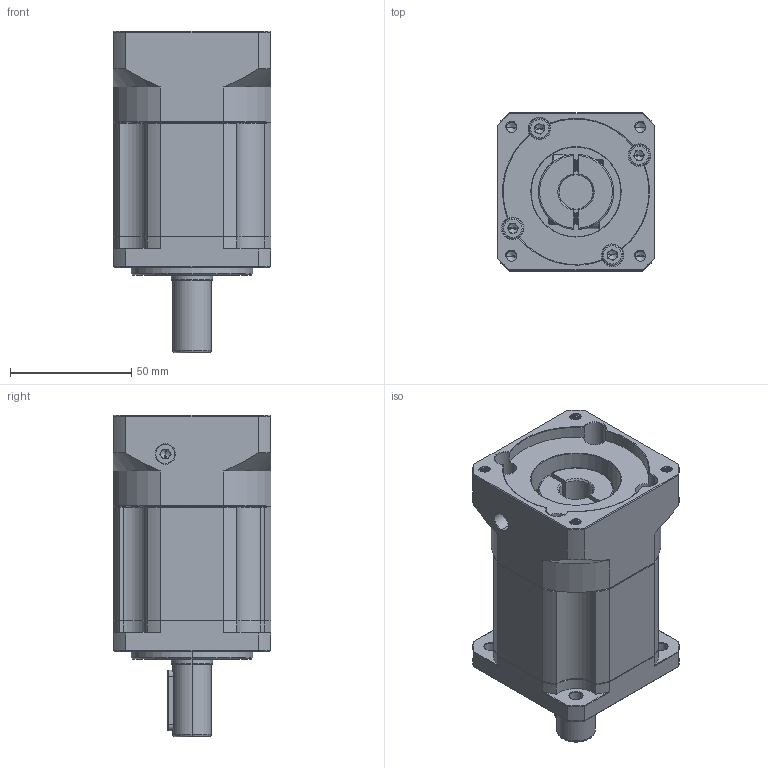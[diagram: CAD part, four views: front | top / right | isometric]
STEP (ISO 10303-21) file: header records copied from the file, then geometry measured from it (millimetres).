
FILE_DESCRIPTION (( 'STEP AP214' ), '1' );
FILE_NAME ('ZB060-D16-L2-P2-14-60-75-M5.step', '2023-08-16T07:06:29', ( '' ), ( '' ), 'SwSTEP 2.0', 'SolidWorks 2016', '' );
FILE_SCHEMA (( 'AUTOMOTIVE_DESIGN' ));
Length unit declared in the file: millimetre
Products named in the file (1): ZB060-D16-L2-P2-14-60-75-M5
Bounding box: 65 x 65 x 132.5 mm (x, y, z)
Volume: 326613.3 mm3; surface area: 58647.6 mm2
Topology: 6 solids, 6 shells, 2172 faces, 5855 edges, 3767 vertices
Faces by surface type: plane 1059, bspline 397, cylinder 396, cone 286, torus 34
Entity records: 118086 total; most frequent: CARTESIAN_POINT 42803, ORIENTED_EDGE 11650, DIRECTION 9186, EDGE_CURVE 5825, VERTEX_POINT 3767, VECTOR 3662, LINE 3662, AXIS2_PLACEMENT_3D 2762
